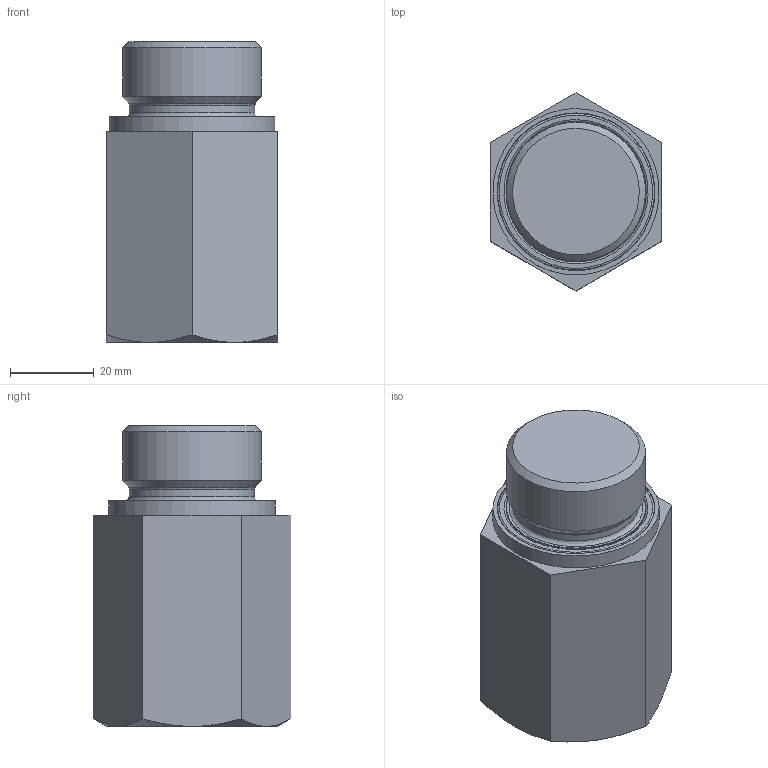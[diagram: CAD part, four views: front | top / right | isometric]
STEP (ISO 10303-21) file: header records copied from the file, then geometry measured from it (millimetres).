
FILE_DESCRIPTION((''),'2;1');
FILE_NAME('U:\Users\r.stiegele\FNS060_1520(27891200).stp', '2014-02-24T09:00:18',('User'),('SDRC'),'I-DEAS Master Series 9','UNIX', 'Yes');
FILE_SCHEMA(('AUTOMOTIVE_DESIGN { 1 0 10303 214 1 1 1 1 }'));
Length unit declared in the file: millimetre
Products named in the file (1): 27891200(321061)
Bounding box: 41 x 47.34 x 72 mm (x, y, z)
Volume: 82246 mm3; surface area: 14706.6 mm2
Topology: 1 solids, 3 shells, 41 faces, 77 edges, 45 vertices
Faces by surface type: bspline 41
Entity records: 1361 total; most frequent: CARTESIAN_POINT 857, ORIENTED_EDGE 154, EDGE_CURVE 77, EDGE_LOOP 48, VERTEX_POINT 45, FACE_OUTER_BOUND 41, ADVANCED_FACE 41, QUASI_UNIFORM_CURVE 12
